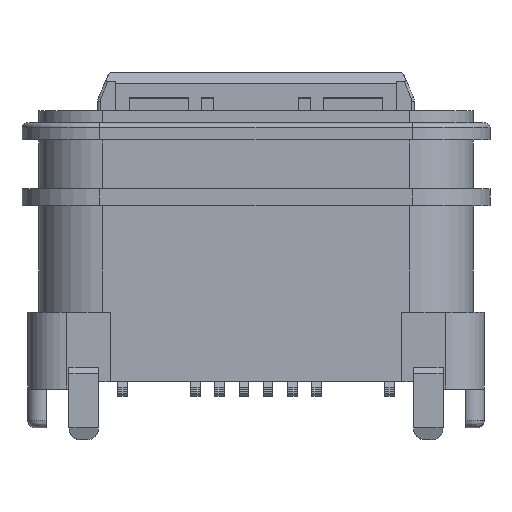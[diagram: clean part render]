
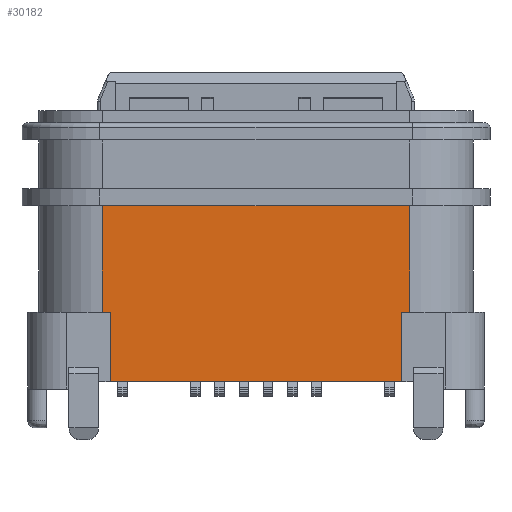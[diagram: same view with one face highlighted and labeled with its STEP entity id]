
A CAD part, front view. The second image highlights one B-rep face of the part: STEP entity #30182.
In plain terms, the highlighted planar face has unit normal (0, -1, 0).
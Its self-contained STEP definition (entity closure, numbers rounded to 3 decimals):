
#366 = CARTESIAN_POINT ( 'NONE',  ( 3., -1.58, -1.93 ) ) ;
#1014 = VECTOR ( 'NONE', #18202, 1000. ) ;
#2099 = VECTOR ( 'NONE', #19654, 1000. ) ;
#2429 = AXIS2_PLACEMENT_3D ( 'NONE', #2888, #28815, #17014 ) ;
#2463 = VECTOR ( 'NONE', #3437, 1000. ) ;
#2888 = CARTESIAN_POINT ( 'NONE',  ( -3.17, -1.58, 5.17 ) ) ;
#3136 = VERTEX_POINT ( 'NONE', #6621 ) ;
#3437 = DIRECTION ( 'NONE',  ( 1., 0., 0. ) ) ;
#3452 = VECTOR ( 'NONE', #14355, 1000. ) ;
#3493 = FACE_OUTER_BOUND ( 'NONE', #22796, .T. ) ;
#3582 = VECTOR ( 'NONE', #22182, 1000. ) ;
#4298 = VERTEX_POINT ( 'NONE', #9678 ) ;
#4541 = EDGE_CURVE ( 'NONE', #13345, #5343, #14161, .T. ) ;
#5343 = VERTEX_POINT ( 'NONE', #14124 ) ;
#5689 = DIRECTION ( 'NONE',  ( -1., 0., 0. ) ) ;
#6621 = CARTESIAN_POINT ( 'NONE',  ( 3.17, -1.58, -0.5 ) ) ;
#7376 = CARTESIAN_POINT ( 'NONE',  ( -3.17, -1.58, -0.5 ) ) ;
#7409 = DIRECTION ( 'NONE',  ( 0., 0., 1. ) ) ;
#7765 = LINE ( 'NONE', #12357, #3582 ) ;
#8049 = VERTEX_POINT ( 'NONE', #7376 ) ;
#8640 = VECTOR ( 'NONE', #26556, 1000. ) ;
#8644 = VERTEX_POINT ( 'NONE', #21867 ) ;
#8840 = CARTESIAN_POINT ( 'NONE',  ( -3., -1.58, -0.5 ) ) ;
#9678 = CARTESIAN_POINT ( 'NONE',  ( 3.17, -1.58, 1.7 ) ) ;
#9739 = EDGE_CURVE ( 'NONE', #28641, #23256, #22652, .T. ) ;
#9755 = ORIENTED_EDGE ( 'NONE', *, *, #14094, .T. ) ;
#10593 = ORIENTED_EDGE ( 'NONE', *, *, #18392, .F. ) ;
#11420 = EDGE_CURVE ( 'NONE', #8644, #4298, #16667, .T. ) ;
#12357 = CARTESIAN_POINT ( 'NONE',  ( 3.17, -1.58, -0.5 ) ) ;
#12537 = CARTESIAN_POINT ( 'NONE',  ( 3., -1.58, -1.93 ) ) ;
#13345 = VERTEX_POINT ( 'NONE', #12537 ) ;
#14094 = EDGE_CURVE ( 'NONE', #23256, #13345, #15096, .T. ) ;
#14124 = CARTESIAN_POINT ( 'NONE',  ( 3., -1.58, -0.5 ) ) ;
#14161 = LINE ( 'NONE', #366, #15953 ) ;
#14355 = DIRECTION ( 'NONE',  ( 1., 0., 0. ) ) ;
#14729 = CARTESIAN_POINT ( 'NONE',  ( -3., -1.58, -0.5 ) ) ;
#14899 = LINE ( 'NONE', #17202, #8640 ) ;
#15096 = LINE ( 'NONE', #24168, #2463 ) ;
#15345 = LINE ( 'NONE', #15637, #2099 ) ;
#15637 = CARTESIAN_POINT ( 'NONE',  ( 3.17, -1.58, -0.5 ) ) ;
#15683 = EDGE_CURVE ( 'NONE', #8644, #8049, #14899, .T. ) ;
#15953 = VECTOR ( 'NONE', #7409, 1000. ) ;
#16667 = LINE ( 'NONE', #26021, #3452 ) ;
#17014 = DIRECTION ( 'NONE',  ( 0., 0., -1. ) ) ;
#17202 = CARTESIAN_POINT ( 'NONE',  ( -3.17, -1.58, 1.7 ) ) ;
#18202 = DIRECTION ( 'NONE',  ( 0., 0., -1. ) ) ;
#18392 = EDGE_CURVE ( 'NONE', #28641, #8049, #28847, .T. ) ;
#19654 = DIRECTION ( 'NONE',  ( -1., 0., 0. ) ) ;
#21290 = ORIENTED_EDGE ( 'NONE', *, *, #11420, .F. ) ;
#21358 = EDGE_CURVE ( 'NONE', #3136, #4298, #7765, .T. ) ;
#21867 = CARTESIAN_POINT ( 'NONE',  ( -3.17, -1.58, 1.7 ) ) ;
#22182 = DIRECTION ( 'NONE',  ( 0., 0., 1. ) ) ;
#22335 = EDGE_CURVE ( 'NONE', #3136, #5343, #15345, .T. ) ;
#22652 = LINE ( 'NONE', #8840, #1014 ) ;
#22796 = EDGE_LOOP ( 'NONE', ( #24802, #21290, #29191, #10593, #26866, #9755, #26310, #24873 ) ) ;
#23256 = VERTEX_POINT ( 'NONE', #28708 ) ;
#23944 = CARTESIAN_POINT ( 'NONE',  ( -3., -1.58, -0.5 ) ) ;
#24168 = CARTESIAN_POINT ( 'NONE',  ( -3., -1.58, -1.93 ) ) ;
#24802 = ORIENTED_EDGE ( 'NONE', *, *, #21358, .T. ) ;
#24873 = ORIENTED_EDGE ( 'NONE', *, *, #22335, .F. ) ;
#25993 = VECTOR ( 'NONE', #5689, 1000. ) ;
#26021 = CARTESIAN_POINT ( 'NONE',  ( -3.17, -1.58, 1.7 ) ) ;
#26310 = ORIENTED_EDGE ( 'NONE', *, *, #4541, .T. ) ;
#26520 = PLANE ( 'NONE',  #2429 ) ;
#26556 = DIRECTION ( 'NONE',  ( 0., 0., -1. ) ) ;
#26866 = ORIENTED_EDGE ( 'NONE', *, *, #9739, .T. ) ;
#28641 = VERTEX_POINT ( 'NONE', #14729 ) ;
#28708 = CARTESIAN_POINT ( 'NONE',  ( -3., -1.58, -1.93 ) ) ;
#28815 = DIRECTION ( 'NONE',  ( 0., -1., 0. ) ) ;
#28847 = LINE ( 'NONE', #23944, #25993 ) ;
#29191 = ORIENTED_EDGE ( 'NONE', *, *, #15683, .T. ) ;
#30182 = ADVANCED_FACE ( 'NONE', ( #3493 ), #26520, .T. ) ;
